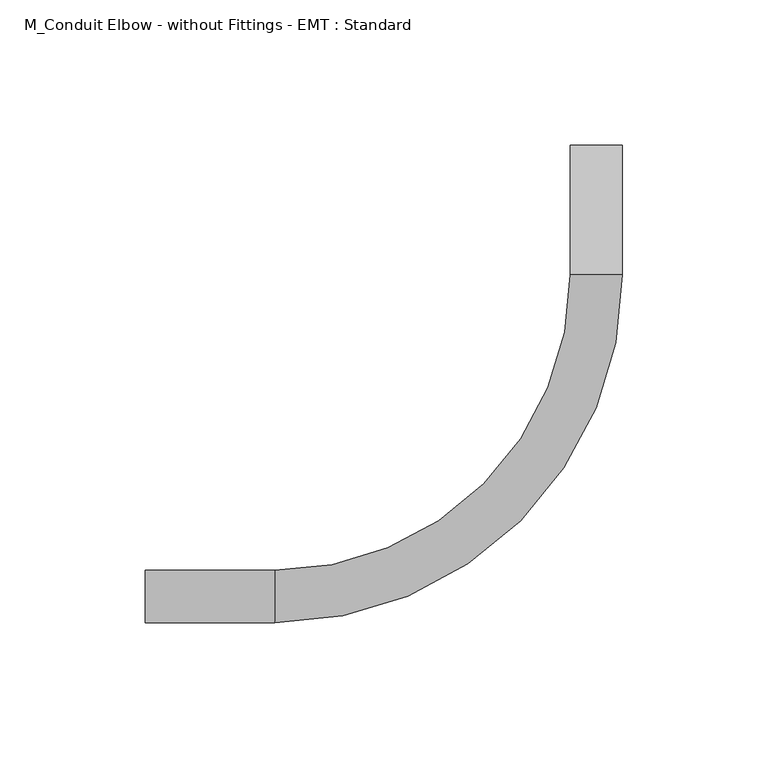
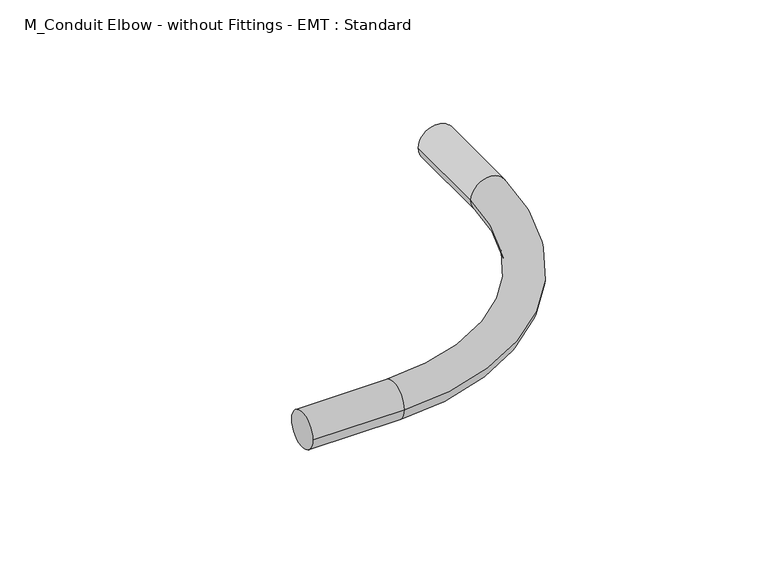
"""IFC4 building model written with IfcOpenShell, lengths in millimetres: cable carrier fitting geometry, M_Conduit Elbow - without Fittings - EMT : Standard."""

import ifcopenshell
import ifcopenshell.guid

model = None  # the IFC model being written
_history = None  # IfcOwnerHistory: only IFC2X3 demands one
_inside = {}  # id of a spatial element -> (the spatial element, [elements in it])
_under = {}  # id of a project, library or spatial element -> (it, [spatial elements below it])
_declared = {}  # id of a project -> (the project, [libraries it declares])
_typed = {}  # id of a type object -> (the type object, [elements of that type])
_made_of = {}  # id of a material, layer set ... -> (it, [elements and type objects made of it])


def new_model(schema):
    """Start an empty IFC model of exactly this schema.

    Asked for "IFC4X3", IfcOpenShell would pick the latest addendum, in which some entities
    have other attributes; the version numbers below select the first issue.
    IFC2X3 requires an IfcOwnerHistory on every rooted entity: one is made here for all.
    """
    global model, _history
    if schema == "IFC4X3":
        model = ifcopenshell.file(schema_version=(4, 3, 0, 0))
    else:
        model = ifcopenshell.file(schema=schema)
    _inside.clear()
    _under.clear()
    _declared.clear()
    _typed.clear()
    _made_of.clear()
    _history = None
    if model.schema == "IFC2X3":
        org = make("IfcOrganization", Name="unknown")
        user = make(
            "IfcPersonAndOrganization",
            ThePerson=make("IfcPerson", FamilyName="unknown"),
            TheOrganization=org,
        )
        app = make(
            "IfcApplication",
            ApplicationDeveloper=org,
            Version="unknown",
            ApplicationFullName="unknown",
            ApplicationIdentifier="unknown",
        )
        _history = make(
            "IfcOwnerHistory",
            OwningUser=user,
            OwningApplication=app,
            ChangeAction="ADDED",
            CreationDate=0,
        )
    return model


def make(cls, **values):
    """One entity of the class cls with the attributes given. An attribute that is None is left unset."""
    return model.create_entity(
        cls, **{name: value for name, value in values.items() if value is not None}
    )


def rooted(cls, **values):
    """An entity with a GlobalId (a new one), such as an element, a storey or a relation."""
    return make(cls, GlobalId=ifcopenshell.guid.new(), OwnerHistory=_history, **values)


def si_unit(unit_type, name, prefix=None):
    """IfcSIUnit, for example si_unit("LENGTHUNIT", "METRE", prefix="MILLI")."""
    return make("IfcSIUnit", UnitType=unit_type, Prefix=prefix, Name=name)


def assignment(units):
    """IfcUnitAssignment: the units of a project."""
    return None if units is None else make("IfcUnitAssignment", Units=units)


def point(xyz):
    """IfcCartesianPoint."""
    return None if xyz is None else make("IfcCartesianPoint", Coordinates=xyz)


def direction(xyz):
    """IfcDirection."""
    return None if xyz is None else make("IfcDirection", DirectionRatios=xyz)


def frame(location, z_axis=None, x_axis=None):
    """IfcAxis2Placement3D, a coordinate frame: its origin and axes. An axis left out is left unset."""
    return make(
        "IfcAxis2Placement3D",
        Location=point(location),
        Axis=direction(z_axis),
        RefDirection=direction(x_axis),
    )


def origin():
    """The frame at (0, 0, 0) with its axes left unset."""
    return frame((0.0, 0.0, 0.0))


def place(relative_to, where):
    """IfcLocalPlacement: puts the frame where relative to a parent placement (None: the world)."""
    return make(
        "IfcLocalPlacement", PlacementRelTo=relative_to, RelativePlacement=where
    )


def context(
    kind, dimensions, precision=None, world=None, true_north=None, identifier=None
):
    """IfcGeometricRepresentationContext, for example the 3D "Model" context."""
    return make(
        "IfcGeometricRepresentationContext",
        ContextIdentifier=identifier,
        ContextType=kind,
        CoordinateSpaceDimension=dimensions,
        Precision=precision,
        WorldCoordinateSystem=world,
        TrueNorth=true_north,
    )


def project(units=None, contexts=None):
    """IfcProject with its units and contexts."""
    return rooted(
        "IfcProject",
        Name="project",
        RepresentationContexts=contexts,
        UnitsInContext=assignment(units),
    )


def spatial(cls, under=None, at=None, **own):
    """A site, building, storey or space (cls), placed at a placement, below another one or the project."""
    s = rooted(cls, ObjectPlacement=at, **own)
    if under is not None:
        _under.setdefault(under.id(), (under, []))[1].append(s)
    return s


def circle_curve(where, radius):
    """IfcCircle in the frame where."""
    return make("IfcCircle", Position=where, Radius=radius)


def ellipse_curve(where, semi_axis1, semi_axis2):
    """IfcEllipse in the frame where."""
    return make(
        "IfcEllipse", Position=where, SemiAxis1=semi_axis1, SemiAxis2=semi_axis2
    )


def trimmed(basis, trim1, trim2, sense, master):
    """IfcTrimmedCurve: the piece of a basis curve between two trims."""
    return make(
        "IfcTrimmedCurve",
        BasisCurve=basis,
        Trim1=trim1,
        Trim2=trim2,
        SenseAgreement=sense,
        MasterRepresentation=master,
    )


def shape(context_of_items, identifier, shape_type, items):
    """IfcShapeRepresentation: the items that make up one representation, for example the "Body"."""
    return make(
        "IfcShapeRepresentation",
        ContextOfItems=context_of_items,
        RepresentationIdentifier=identifier,
        RepresentationType=shape_type,
        Items=items,
    )


def source(mapping_origin, context_of_items, identifier, shape_type, items):
    """IfcRepresentationMap: a shape defined once, which mapped items show again and again."""
    return make(
        "IfcRepresentationMap",
        MappingOrigin=mapping_origin,
        MappedRepresentation=shape(context_of_items, identifier, shape_type, items),
    )


def transform(
    local_origin,
    x_axis=None,
    y_axis=None,
    z_axis=None,
    scale=None,
    scale2=None,
    scale3=None,
    uniform=True,
):
    """IfcCartesianTransformationOperator3D, or its non-uniform kind. x_axis, y_axis, z_axis: its Axis1, 2, 3."""
    if uniform:
        return make(
            "IfcCartesianTransformationOperator3D",
            Axis1=direction(x_axis),
            Axis2=direction(y_axis),
            LocalOrigin=point(local_origin),
            Scale=scale,
            Axis3=direction(z_axis),
        )
    return make(
        "IfcCartesianTransformationOperator3DnonUniform",
        Axis1=direction(x_axis),
        Axis2=direction(y_axis),
        LocalOrigin=point(local_origin),
        Scale=scale,
        Axis3=direction(z_axis),
        Scale2=scale2,
        Scale3=scale3,
    )


def mapped(mapping_source, mapping_target):
    """IfcMappedItem: shows the shape of a source again, moved by a transform."""
    return make(
        "IfcMappedItem", MappingSource=mapping_source, MappingTarget=mapping_target
    )


def made_of(thing, what):
    """Note that an element or type object is made of a material, layer set ...; save() writes the relation."""
    if what is not None:
        _made_of.setdefault(what.id(), (what, []))[1].append(thing)
    return thing


def element(
    cls,
    number,
    at=None,
    inside=None,
    cuts=None,
    type_object=None,
    material=None,
    context=None,
    identifier="Body",
    shape_type=None,
    held_by="IfcProductDefinitionShape",
    body=None,
    shapes=None,
    **own,
):
    """One element of the class cls, such as IfcWall. Its Tag is "e" and its number.

    at: its placement. inside: the storey or other place that contains it. cuts: it is an
    opening in that element (IfcRelVoidsElement). A single representation is given by context,
    identifier, shape_type and body (its items); several are given by shapes. held_by: the class
    of the entity that holds the representations. save() writes the other relations.
    """
    e = rooted(cls, Tag="e%d" % number, ObjectPlacement=at, **own)
    if body is not None:
        shapes = [shape(context, identifier, shape_type, body)]
    if shapes is not None:
        e.Representation = make(held_by, Representations=shapes)
    if inside is not None:
        _inside.setdefault(inside.id(), (inside, []))[1].append(e)
    if cuts is not None:
        rooted(
            "IfcRelVoidsElement", RelatingBuildingElement=cuts, RelatedOpeningElement=e
        )
    if type_object is not None:
        _typed.setdefault(type_object.id(), (type_object, []))[1].append(e)
    return made_of(e, material)


def aggregate(whole, parts):
    """IfcRelAggregates: a whole, such as a stair, and the parts it consists of."""
    return rooted("IfcRelAggregates", RelatingObject=whole, RelatedObjects=parts)


def save(model, path):
    """Write the relations noted so far, then the file.

    IfcRelAggregates (storeys below a building ...), IfcRelContainedInSpatialStructure (elements
    in a storey), IfcRelDefinesByType, IfcRelAssociatesMaterial and IfcRelDeclares: one each for
    every whole, place, type object, material and project.
    """
    for whole, parts in _under.values():
        aggregate(whole, parts)
    for where, things in _inside.values():
        rooted(
            "IfcRelContainedInSpatialStructure",
            RelatedElements=things,
            RelatingStructure=where,
        )
    for kind, things in _typed.values():
        rooted("IfcRelDefinesByType", RelatedObjects=things, RelatingType=kind)
    for what, things in _made_of.values():
        rooted("IfcRelAssociatesMaterial", RelatedObjects=things, RelatingMaterial=what)
    for by, libraries in _declared.values():
        rooted("IfcRelDeclares", RelatingContext=by, RelatedDefinitions=libraries)
    model.write(path)


def plane_surface(at):
    """IfcPlane: the flat surface through the origin of the frame at, square to its z axis."""
    return make("IfcPlane", Position=at)


def cylinder_surface(at, radius):
    """IfcCylindricalSurface: all points at the distance radius from the z axis of the frame at."""
    return make("IfcCylindricalSurface", Position=at, Radius=radius)


def revolved_surface(curve, axis_point, axis_direction):
    """IfcSurfaceOfRevolution: the curve turned about the line through axis_point along axis_direction."""
    return make(
        "IfcSurfaceOfRevolution",
        SweptCurve=make("IfcArbitraryOpenProfileDef", ProfileType="CURVE", Curve=curve),
        AxisPosition=make("IfcAxis1Placement", Location=point(axis_point), Axis=direction(axis_direction)),
    )


def advanced_brep(points, edges, surfaces, faces):
    """IfcAdvancedBrep: a solid bounded by faces that lie on surfaces and meet in shared edges.

    An edge is (start, end): straight between two places in points (the first is 0);
    or (start, end, curve); or (start, end, curve, False) where it runs against its curve.
    A face is (place in surfaces, loops), or (place, loops, False) where it looks against
    its surface's normal. A loop lists edges by number (the first is 1), with a minus sign
    where the edge is run from its end to its start. The first loop is the outer one.
    """
    corners = [point(p) for p in points]
    vertices = [make("IfcVertexPoint", VertexGeometry=c) for c in corners]
    made = []
    for start, end, *more in edges:
        made.append(
            make(
                "IfcEdgeCurve",
                EdgeStart=vertices[start],
                EdgeEnd=vertices[end],
                EdgeGeometry=more[0] if more else make("IfcPolyline", Points=[corners[start], corners[end]]),
                SameSense=more[1] if len(more) > 1 else True,
            )
        )
    hull = []
    for where, loops, *sense in faces:
        bounds = []
        for j, loop in enumerate(loops):
            ring = [make("IfcOrientedEdge", EdgeElement=made[abs(k) - 1], Orientation=k > 0) for k in loop]
            bounds.append(
                make(
                    "IfcFaceOuterBound" if j == 0 else "IfcFaceBound",
                    Bound=make("IfcEdgeLoop", EdgeList=ring),
                    Orientation=True,
                )
            )
        hull.append(make("IfcAdvancedFace", Bounds=bounds, FaceSurface=surfaces[where], SameSense=sense[0] if sense else True))
    return make("IfcAdvancedBrep", Outer=make("IfcClosedShell", CfsFaces=hull))


def m_conduit_elbow_without_fittings_emt_standard_7170886f(model_context):
    return source(origin(), model_context, "Body", "AdvancedBrep", [
        advanced_brep(
        [(-155.0357472, -8.9662, 0.0), (-155.0357472, 8.9662, 0.0), (-110.5857472, -8.9662, 0.0), (-110.5857472, 8.9662, 0.0), (-8.9819482, 110.5844692, 0.0), (8.9504516, 110.5870229, 0.0), (8.9441216, 155.0370225, 0.0), (-8.9882783, 155.0344688, 0.0)],
        [
            (0, 1, circle_curve(frame((-155.0357472, 0.0, 0.0), z_axis=(-1.0, 0.0, 0.0), x_axis=(0.0, 1.0, 0.0)), 8.9662)),
            (1, 0, circle_curve(frame((-155.0357472, 0.0, 0.0), z_axis=(-1.0, 0.0, 0.0), x_axis=(0.0, 1.0, 0.0)), 8.9662)),
            (0, 2),
            (2, 3, circle_curve(frame((-110.5857472, 0.0, 0.0), z_axis=(-1.0, 0.0, 0.0), x_axis=(0.0, 1.0, 0.0)), 8.9662)),
            (3, 1),
            (3, 2, circle_curve(frame((-110.5857472, 0.0, 0.0), z_axis=(-1.0, 0.0, 0.0), x_axis=(0.0, 1.0, 0.0)), 8.9662)),
            (4, 3, circle_curve(frame((-110.5857472, 110.57, 0.0), z_axis=(0.0, 0.0, -1.0), x_axis=(0.0, -1.0, 0.0)), 101.6038)),
            (2, 5, circle_curve(frame((-110.5857472, 110.57, 0.0), z_axis=(0.0, 0.0, 1.0), x_axis=(0.0, -1.0, 0.0)), 119.5362)),
            (5, 4, circle_curve(frame((-0.0157483, 110.5857461, 0.0), z_axis=(0.0001424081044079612, -0.9999999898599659, 0.0), x_axis=(-0.9999999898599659, -0.0001424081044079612, 0.0)), 8.9662)),
            (4, 5, circle_curve(frame((-0.0157483, 110.5857461, 0.0), z_axis=(0.0001424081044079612, -0.9999999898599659, 0.0), x_axis=(-0.9999999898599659, -0.0001424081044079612, 0.0)), 8.9662)),
            (6, 7, circle_curve(frame((-0.0220783, 155.0357456, 0.0), z_axis=(-0.00014240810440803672, 0.9999999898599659, 0.0), x_axis=(-0.9999999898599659, -0.00014240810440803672, 0.0)), 8.9662)),
            (7, 6, circle_curve(frame((-0.0220783, 155.0357456, 0.0), z_axis=(-0.00014240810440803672, 0.9999999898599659, 0.0), x_axis=(-0.9999999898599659, -0.00014240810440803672, 0.0)), 8.9662)),
            (5, 6),
            (7, 4),
        ],
        [
            plane_surface(frame((-155.0357472, 0.0, 0.0), z_axis=(-1.0, 0.0, 0.0), x_axis=(0.0, 0.0, 1.0))),
            cylinder_surface(frame((-155.0357472, 0.0, 0.0), z_axis=(-1.0, 0.0, 0.0), x_axis=(0.0, 1.0, 0.0)), 8.9662),
            revolved_surface(trimmed(ellipse_curve(frame((-110.5857472, 0.0, 0.0), z_axis=(-1.0, 0.0, 0.0), x_axis=(0.0, 1.0, 0.0)), 8.9662, 8.9662), [point((-110.5857472, -8.9662, 0.0))], [point((-110.5857472, 8.9662, 0.0))], True, "CARTESIAN"), (-110.5857472, 110.57, 0.0), (0.0, 0.0, 1.0)),
            revolved_surface(trimmed(ellipse_curve(frame((-110.5857472, 0.0, 0.0), z_axis=(-1.0, 0.0, 0.0), x_axis=(0.0, 1.0, 0.0)), 8.9662, 8.9662), [point((-110.5857472, 8.9662, 0.0))], [point((-110.5857472, -8.9662, 0.0))], True, "CARTESIAN"), (-110.5857472, 110.57, 0.0), (0.0, 0.0, 1.0)),
            plane_surface(frame((-0.0220783, 155.0357456, 0.0), z_axis=(-0.00014240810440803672, 0.9999999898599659, 0.0), x_axis=(0.0, 0.0, 1.0))),
            cylinder_surface(frame((-0.0157483, 110.5857461, 0.0), z_axis=(0.00014240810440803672, -0.9999999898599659, 0.0), x_axis=(-0.9999999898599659, -0.00014240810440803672, 0.0)), 8.9662),
        ],
        [
            (0, [[1, 2]]),
            (1, [[-1, 3, 4, 5]]),
            (1, [[-2, -5, 6, -3]]),
            (2, [[7, -4, 8, 9]]),
            (3, [[-8, -6, -7, 10]]),
            (4, [[11, 12]]),
            (5, [[-9, 13, -12, 14]]),
            (5, [[-10, -14, -11, -13]]),
        ],
    ),
    ])


if __name__ == "__main__":
    model = new_model("IFC4")
    model_context = context("Model", 3, world=origin())
    ifc_project = project(units=[si_unit("LENGTHUNIT", "METRE", prefix="MILLI")], contexts=[model_context])
    site = spatial("IfcSite", under=ifc_project)
    building = spatial("IfcBuilding", under=site)
    placement = place(None, origin())
    m_conduit_elbow_without_fittings_emt_standard_shape = m_conduit_elbow_without_fittings_emt_standard_7170886f(model_context)
    element("IfcCableCarrierFitting", 1, ObjectType="M_Conduit Elbow - without Fittings - EMT : Standard", at=placement, inside=building, context=model_context, shape_type="MappedRepresentation", body=[
        mapped(m_conduit_elbow_without_fittings_emt_standard_shape, transform((0.0, 0.0, 0.0), x_axis=(1.0, 0.0, 0.0), y_axis=(0.0, 1.0, 0.0), z_axis=(0.0, 0.0, 1.0))),
    ])
    save(model, "model.ifc")
